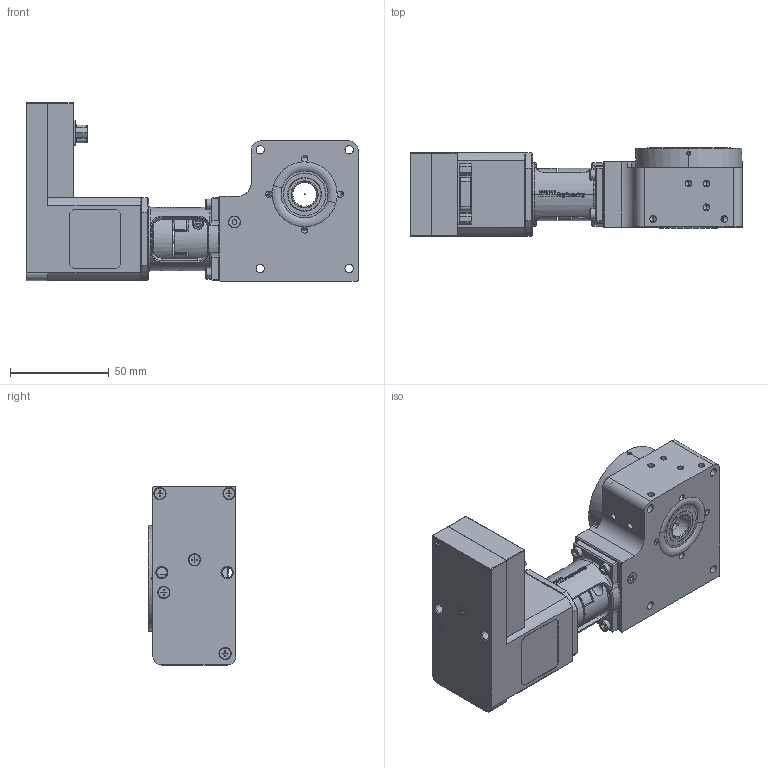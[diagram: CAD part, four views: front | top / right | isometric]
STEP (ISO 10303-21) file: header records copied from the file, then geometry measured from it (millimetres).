
FILE_DESCRIPTION (( 'STEP AP203' ), '1' );
FILE_NAME ('MDT36008-i40-AK-S.STEP', '2016-05-24T07:51:20', ( '' ), ( '' ), 'SwSTEP 2.0', 'SolidWorks 2014', '' );
FILE_SCHEMA (( 'CONFIG_CONTROL_DESIGN' ));
Length unit declared in the file: millimetre
Products named in the file (4): MDT36008-000-01-Gehäuse-komplett; MDT36008-000-02-Drehscheibe-komplett; GSM17-Schrittmotor-mit-Steuerung; MDT36008-i40-AK-S
Assembly tree (3 placements, depth 2):
  MDT36008-i40-AK-S
    MDT36008-000-01-Gehäuse-komplett
    MDT36008-000-02-Drehscheibe-komplett
    GSM17-Schrittmotor-mit-Steuerung
Bounding box: 168 x 44.5 x 90.38 mm (x, y, z)
Volume: 258223 mm3; surface area: 93860.7 mm2
Topology: 6 solids, 27 shells, 2392 faces, 6393 edges, 4087 vertices
Faces by surface type: cylinder 855, plane 668, cone 401, bspline 352, torus 99, sphere 17
Entity records: 94517 total; most frequent: CARTESIAN_POINT 39060, ORIENTED_EDGE 12552, DIRECTION 9916, EDGE_CURVE 6276, VERTEX_POINT 4069, AXIS2_PLACEMENT_3D 3982, EDGE_LOOP 2639, FACE_OUTER_BOUND 2392
